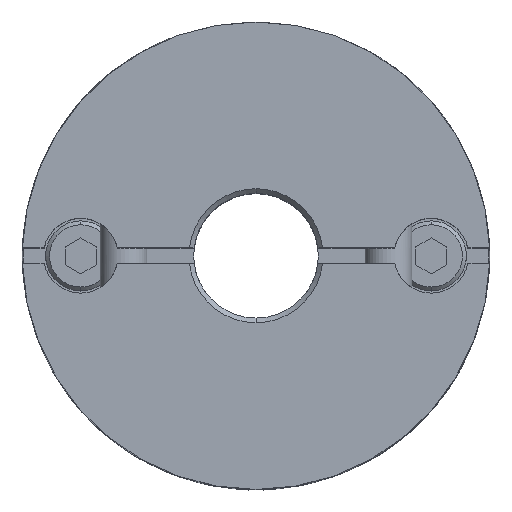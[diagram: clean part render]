
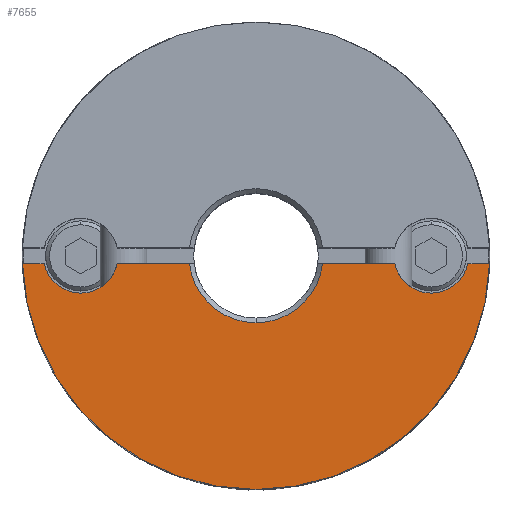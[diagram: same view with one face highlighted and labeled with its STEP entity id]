
A CAD part, top view. The second image highlights one B-rep face of the part: STEP entity #7655.
In plain terms, the highlighted planar face has unit normal (0, 0, 1).
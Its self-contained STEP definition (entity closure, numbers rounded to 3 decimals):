
#622=CARTESIAN_POINT('',(0.,-15.0,11.8));
#623=VERTEX_POINT('',#622);
#630=CARTESIAN_POINT('',(-14.992,-0.5,11.8));
#631=VERTEX_POINT('',#630);
#632=CARTESIAN_POINT('',(0.0,0.0,11.8));
#633=DIRECTION('',(0.0,0.0,-1.0));
#634=DIRECTION('',(0.0,1.0,0.0));
#635=AXIS2_PLACEMENT_3D('',#632,#633,#634);
#636=CIRCLE('',#635,15.0);
#637=EDGE_CURVE('',#623,#631,#636,.T.);
#1032=CARTESIAN_POINT('',(0.,-4.3,11.8));
#1033=VERTEX_POINT('',#1032);
#1041=CARTESIAN_POINT('',(-4.271,-0.5,11.8));
#1042=VERTEX_POINT('',#1041);
#1056=CARTESIAN_POINT('',(0.0,0.0,11.8));
#1057=DIRECTION('',(0.0,0.0,1.0));
#1058=DIRECTION('',(0.0,-1.0,0.0));
#1059=AXIS2_PLACEMENT_3D('',#1056,#1057,#1058);
#1060=CIRCLE('',#1059,4.3);
#1061=EDGE_CURVE('',#1042,#1033,#1060,.T.);
#1353=CARTESIAN_POINT('',(-11.25,-2.4,11.8));
#1354=VERTEX_POINT('',#1353);
#1370=CARTESIAN_POINT('',(-13.597,-0.5,11.8));
#1371=VERTEX_POINT('',#1370);
#1378=CARTESIAN_POINT('',(-11.25,0.,11.8));
#1379=DIRECTION('',(0.0,0.0,-1.0));
#1380=DIRECTION('',(0.0,1.0,0.0));
#1381=AXIS2_PLACEMENT_3D('',#1378,#1379,#1380);
#1382=CIRCLE('',#1381,2.4);
#1383=EDGE_CURVE('',#1354,#1371,#1382,.T.);
#1585=CARTESIAN_POINT('',(11.25,-2.4,11.8));
#1586=VERTEX_POINT('',#1585);
#1652=CARTESIAN_POINT('',(8.903,-0.5,11.8));
#1653=VERTEX_POINT('',#1652);
#1660=CARTESIAN_POINT('',(11.25,0.,11.8));
#1661=DIRECTION('',(0.0,0.0,-1.0));
#1662=DIRECTION('',(0.0,1.0,0.0));
#1663=AXIS2_PLACEMENT_3D('',#1660,#1661,#1662);
#1664=CIRCLE('',#1663,2.4);
#1665=EDGE_CURVE('',#1586,#1653,#1664,.T.);
#6153=CARTESIAN_POINT('',(13.597,-0.5,11.8));
#6154=VERTEX_POINT('',#6153);
#6155=CARTESIAN_POINT('',(11.25,0.,11.8));
#6156=DIRECTION('',(0.0,0.0,-1.0));
#6157=DIRECTION('',(0.0,1.0,0.0));
#6158=AXIS2_PLACEMENT_3D('',#6155,#6156,#6157);
#6159=CIRCLE('',#6158,2.4);
#6160=EDGE_CURVE('',#6154,#1586,#6159,.T.);
#6560=CARTESIAN_POINT('',(-8.903,-0.5,11.8));
#6561=VERTEX_POINT('',#6560);
#6562=CARTESIAN_POINT('',(-11.25,0.,11.8));
#6563=DIRECTION('',(0.0,0.0,-1.0));
#6564=DIRECTION('',(0.0,1.0,0.0));
#6565=AXIS2_PLACEMENT_3D('',#6562,#6563,#6564);
#6566=CIRCLE('',#6565,2.4);
#6567=EDGE_CURVE('',#6561,#1354,#6566,.T.);
#6690=CARTESIAN_POINT('',(-4.271,-0.5,11.8));
#6691=DIRECTION('',(-1.0,0.0,0.0));
#6692=VECTOR('',#6691,4.632);
#6693=LINE('',#6690,#6692);
#6694=EDGE_CURVE('',#1042,#6561,#6693,.T.);
#6807=CARTESIAN_POINT('',(4.271,-0.5,11.8));
#6808=VERTEX_POINT('',#6807);
#6822=CARTESIAN_POINT('',(8.903,-0.5,11.8));
#6823=DIRECTION('',(-1.0,0.0,0.0));
#6824=VECTOR('',#6823,4.632);
#6825=LINE('',#6822,#6824);
#6826=EDGE_CURVE('',#1653,#6808,#6825,.T.);
#7402=CARTESIAN_POINT('',(14.992,-0.5,11.8));
#7403=VERTEX_POINT('',#7402);
#7404=CARTESIAN_POINT('',(14.992,-0.5,11.8));
#7405=DIRECTION('',(-1.0,0.0,0.0));
#7406=VECTOR('',#7405,1.394);
#7407=LINE('',#7404,#7406);
#7408=EDGE_CURVE('',#7403,#6154,#7407,.T.);
#7522=CARTESIAN_POINT('',(-13.597,-0.5,11.8));
#7523=DIRECTION('',(-1.0,0.0,0.0));
#7524=VECTOR('',#7523,1.394);
#7525=LINE('',#7522,#7524);
#7526=EDGE_CURVE('',#1371,#631,#7525,.T.);
#7624=CARTESIAN_POINT('',(0.,1.364,11.8));
#7625=DIRECTION('',(0.0,0.0,1.0));
#7626=DIRECTION('',(0.0,1.0,0.0));
#7627=AXIS2_PLACEMENT_3D('',#7624,#7625,#7626);
#7628=PLANE('',#7627);
#7629=ORIENTED_EDGE('',*,*,#6160,.T.);
#7630=ORIENTED_EDGE('',*,*,#1665,.T.);
#7631=ORIENTED_EDGE('',*,*,#6826,.T.);
#7632=CARTESIAN_POINT('',(0.0,0.0,11.8));
#7633=DIRECTION('',(0.0,0.0,1.0));
#7634=DIRECTION('',(0.0,-1.0,0.0));
#7635=AXIS2_PLACEMENT_3D('',#7632,#7633,#7634);
#7636=CIRCLE('',#7635,4.3);
#7637=EDGE_CURVE('',#1033,#6808,#7636,.T.);
#7638=ORIENTED_EDGE('',*,*,#7637,.F.);
#7639=ORIENTED_EDGE('',*,*,#1061,.F.);
#7640=ORIENTED_EDGE('',*,*,#6694,.T.);
#7641=ORIENTED_EDGE('',*,*,#6567,.T.);
#7642=ORIENTED_EDGE('',*,*,#1383,.T.);
#7643=ORIENTED_EDGE('',*,*,#7526,.T.);
#7644=ORIENTED_EDGE('',*,*,#637,.F.);
#7645=CARTESIAN_POINT('',(0.0,0.0,11.8));
#7646=DIRECTION('',(0.0,0.0,-1.0));
#7647=DIRECTION('',(0.0,1.0,0.0));
#7648=AXIS2_PLACEMENT_3D('',#7645,#7646,#7647);
#7649=CIRCLE('',#7648,15.0);
#7650=EDGE_CURVE('',#7403,#623,#7649,.T.);
#7651=ORIENTED_EDGE('',*,*,#7650,.F.);
#7652=ORIENTED_EDGE('',*,*,#7408,.T.);
#7653=EDGE_LOOP('',(#7629,#7630,#7631,#7638,#7639,#7640,#7641,#7642,#7643,#7644,#7651,#7652));
#7654=FACE_OUTER_BOUND('',#7653,.T.);
#7655=ADVANCED_FACE('',(#7654),#7628,.T.);
